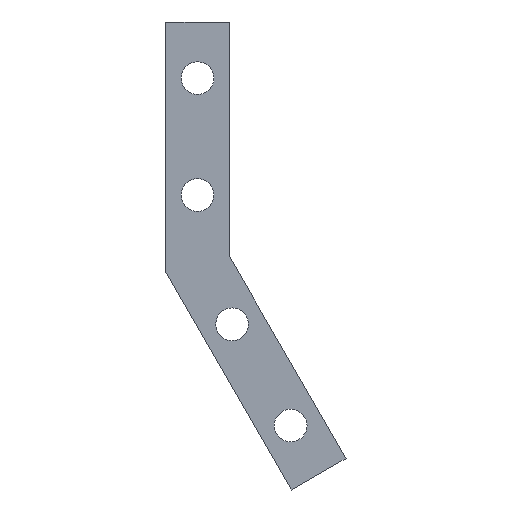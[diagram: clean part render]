
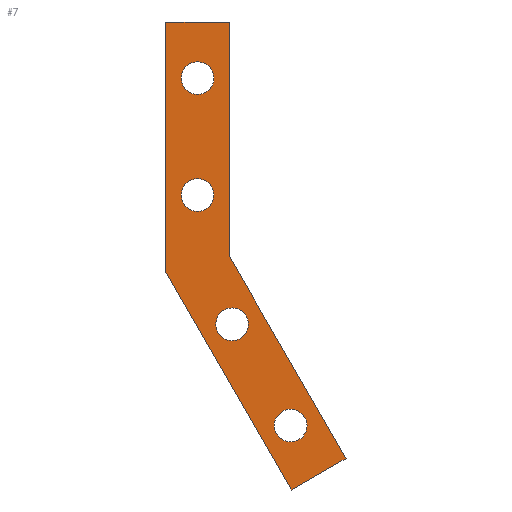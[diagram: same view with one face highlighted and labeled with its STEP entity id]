
A CAD part, front view. The second image highlights one B-rep face of the part: STEP entity #7.
In plain terms, the highlighted planar face has unit normal (0, -1, 0).
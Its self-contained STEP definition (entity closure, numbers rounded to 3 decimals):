
#6 = FACE_BOUND ( 'NONE', #477, .T. ) ;
#7 = ADVANCED_FACE ( 'NONE', ( #425, #380, #6, #175, #182 ), #418, .T. ) ;
#9 = DIRECTION ( 'NONE',  ( 0., -1., 0. ) ) ;
#11 = DIRECTION ( 'NONE',  ( 0., 0., -1. ) ) ;
#13 = EDGE_CURVE ( 'NONE', #508, #85, #261, .T. ) ;
#16 = VERTEX_POINT ( 'NONE', #169 ) ;
#23 = CIRCLE ( 'NONE', #454, 3.5 ) ;
#24 = CARTESIAN_POINT ( 'NONE',  ( 13.5, 0., 3.617 ) ) ;
#27 = DIRECTION ( 'NONE',  ( -0.866, 0., -0.5 ) ) ;
#29 = VERTEX_POINT ( 'NONE', #459 ) ;
#30 = CARTESIAN_POINT ( 'NONE',  ( 26.809, 0., -46.434 ) ) ;
#33 = CARTESIAN_POINT ( 'NONE',  ( 26.654, 0., -32.667 ) ) ;
#35 = VECTOR ( 'NONE', #273, 1000. ) ;
#39 = DIRECTION ( 'NONE',  ( 0., -1., 0. ) ) ;
#40 = CARTESIAN_POINT ( 'NONE',  ( 0., 0., 53.617 ) ) ;
#46 = ORIENTED_EDGE ( 'NONE', *, *, #436, .F. ) ;
#50 = AXIS2_PLACEMENT_3D ( 'NONE', #40, #334, #297 ) ;
#51 = DIRECTION ( 'NONE',  ( 0., 0., -1. ) ) ;
#54 = EDGE_CURVE ( 'NONE', #407, #392, #23, .T. ) ;
#64 = DIRECTION ( 'NONE',  ( -0.5, 0., 0.866 ) ) ;
#65 = CARTESIAN_POINT ( 'NONE',  ( 6.75, 0., 16.617 ) ) ;
#68 = LINE ( 'NONE', #234, #173 ) ;
#72 = CARTESIAN_POINT ( 'NONE',  ( 6.75, 0., 20.117 ) ) ;
#74 = EDGE_CURVE ( 'NONE', #148, #316, #217, .T. ) ;
#80 = CARTESIAN_POINT ( 'NONE',  ( 38.5, 0., -39.684 ) ) ;
#82 = DIRECTION ( 'NONE',  ( 0., -1., 0. ) ) ;
#85 = VERTEX_POINT ( 'NONE', #349 ) ;
#89 = CIRCLE ( 'NONE', #410, 3.5 ) ;
#92 = EDGE_LOOP ( 'NONE', ( #257, #364 ) ) ;
#93 = DIRECTION ( 'NONE',  ( 0., 0., -1. ) ) ;
#94 = AXIS2_PLACEMENT_3D ( 'NONE', #264, #154, #470 ) ;
#119 = AXIS2_PLACEMENT_3D ( 'NONE', #33, #488, #161 ) ;
#122 = EDGE_LOOP ( 'NONE', ( #177, #464 ) ) ;
#145 = ORIENTED_EDGE ( 'NONE', *, *, #378, .F. ) ;
#148 = VERTEX_POINT ( 'NONE', #435 ) ;
#152 = AXIS2_PLACEMENT_3D ( 'NONE', #65, #196, #359 ) ;
#154 = DIRECTION ( 'NONE',  ( 0., -1., 0. ) ) ;
#156 = ORIENTED_EDGE ( 'NONE', *, *, #266, .F. ) ;
#159 = EDGE_CURVE ( 'NONE', #29, #270, #302, .T. ) ;
#161 = DIRECTION ( 'NONE',  ( 0., 0., -1. ) ) ;
#166 = VERTEX_POINT ( 'NONE', #383 ) ;
#169 = CARTESIAN_POINT ( 'NONE',  ( 13.5, 0., 3.617 ) ) ;
#173 = VECTOR ( 'NONE', #291, 1000. ) ;
#175 = FACE_BOUND ( 'NONE', #466, .T. ) ;
#176 = CARTESIAN_POINT ( 'NONE',  ( 14.154, 0., -14.516 ) ) ;
#177 = ORIENTED_EDGE ( 'NONE', *, *, #478, .F. ) ;
#179 = DIRECTION ( 'NONE',  ( 1., 0., 0. ) ) ;
#180 = ORIENTED_EDGE ( 'NONE', *, *, #54, .F. ) ;
#181 = CARTESIAN_POINT ( 'NONE',  ( 14.154, 0., -7.516 ) ) ;
#182 = FACE_BOUND ( 'NONE', #92, .T. ) ;
#186 = ORIENTED_EDGE ( 'NONE', *, *, #74, .F. ) ;
#188 = CARTESIAN_POINT ( 'NONE',  ( 0., 0., 0. ) ) ;
#196 = DIRECTION ( 'NONE',  ( 0., -1., 0. ) ) ;
#214 = DIRECTION ( 'NONE',  ( 0., 0., -1. ) ) ;
#217 = CIRCLE ( 'NONE', #94, 3.5 ) ;
#220 = DIRECTION ( 'NONE',  ( 0., -1., 0. ) ) ;
#223 = ORIENTED_EDGE ( 'NONE', *, *, #537, .F. ) ;
#230 = LINE ( 'NONE', #30, #444 ) ;
#231 = EDGE_CURVE ( 'NONE', #270, #29, #419, .T. ) ;
#234 = CARTESIAN_POINT ( 'NONE',  ( 38.5, 0., -39.684 ) ) ;
#236 = AXIS2_PLACEMENT_3D ( 'NONE', #251, #82, #214 ) ;
#244 = ORIENTED_EDGE ( 'NONE', *, *, #352, .F. ) ;
#246 = VERTEX_POINT ( 'NONE', #532 ) ;
#251 = CARTESIAN_POINT ( 'NONE',  ( 14.154, 0., -11.016 ) ) ;
#257 = ORIENTED_EDGE ( 'NONE', *, *, #231, .F. ) ;
#261 = CIRCLE ( 'NONE', #426, 3.5 ) ;
#264 = CARTESIAN_POINT ( 'NONE',  ( 6.75, 0., 16.617 ) ) ;
#266 = EDGE_CURVE ( 'NONE', #451, #367, #230, .T. ) ;
#267 = LINE ( 'NONE', #484, #35 ) ;
#269 = CARTESIAN_POINT ( 'NONE',  ( 14.154, 0., -11.016 ) ) ;
#270 = VERTEX_POINT ( 'NONE', #363 ) ;
#272 = CARTESIAN_POINT ( 'NONE',  ( 26.654, 0., -32.667 ) ) ;
#273 = DIRECTION ( 'NONE',  ( 0., 0., 1. ) ) ;
#277 = ORIENTED_EDGE ( 'NONE', *, *, #519, .F. ) ;
#289 = DIRECTION ( 'NONE',  ( 0., 0., -1. ) ) ;
#291 = DIRECTION ( 'NONE',  ( 0.5, 0., -0.866 ) ) ;
#293 = LINE ( 'NONE', #376, #319 ) ;
#297 = DIRECTION ( 'NONE',  ( 0., 0., -1. ) ) ;
#302 = CIRCLE ( 'NONE', #400, 3.5 ) ;
#316 = VERTEX_POINT ( 'NONE', #72 ) ;
#319 = VECTOR ( 'NONE', #179, 1000. ) ;
#334 = DIRECTION ( 'NONE',  ( 0., -1., 0. ) ) ;
#339 = EDGE_CURVE ( 'NONE', #316, #148, #371, .T. ) ;
#341 = ORIENTED_EDGE ( 'NONE', *, *, #339, .F. ) ;
#349 = CARTESIAN_POINT ( 'NONE',  ( 6.75, 0., 45.117 ) ) ;
#350 = CARTESIAN_POINT ( 'NONE',  ( 0., 0., 53.617 ) ) ;
#352 = EDGE_CURVE ( 'NONE', #16, #451, #68, .T. ) ;
#359 = DIRECTION ( 'NONE',  ( 0., 0., -1. ) ) ;
#363 = CARTESIAN_POINT ( 'NONE',  ( 26.654, 0., -29.167 ) ) ;
#364 = ORIENTED_EDGE ( 'NONE', *, *, #159, .F. ) ;
#367 = VERTEX_POINT ( 'NONE', #424 ) ;
#370 = CARTESIAN_POINT ( 'NONE',  ( 6.75, 0., 41.617 ) ) ;
#371 = CIRCLE ( 'NONE', #152, 3.5 ) ;
#376 = CARTESIAN_POINT ( 'NONE',  ( 13.5, 0., 53.617 ) ) ;
#378 = EDGE_CURVE ( 'NONE', #392, #407, #447, .T. ) ;
#380 = FACE_BOUND ( 'NONE', #122, .T. ) ;
#383 = CARTESIAN_POINT ( 'NONE',  ( 13.5, 0., 53.617 ) ) ;
#387 = LINE ( 'NONE', #24, #465 ) ;
#389 = VECTOR ( 'NONE', #64, 1000. ) ;
#392 = VERTEX_POINT ( 'NONE', #176 ) ;
#400 = AXIS2_PLACEMENT_3D ( 'NONE', #272, #220, #51 ) ;
#407 = VERTEX_POINT ( 'NONE', #181 ) ;
#410 = AXIS2_PLACEMENT_3D ( 'NONE', #415, #39, #289 ) ;
#415 = CARTESIAN_POINT ( 'NONE',  ( 6.75, 0., 41.617 ) ) ;
#418 = PLANE ( 'NONE',  #50 ) ;
#419 = CIRCLE ( 'NONE', #119, 3.5 ) ;
#424 = CARTESIAN_POINT ( 'NONE',  ( 26.809, 0., -46.434 ) ) ;
#425 = FACE_OUTER_BOUND ( 'NONE', #503, .T. ) ;
#426 = AXIS2_PLACEMENT_3D ( 'NONE', #370, #467, #93 ) ;
#431 = CARTESIAN_POINT ( 'NONE',  ( 6.75, 0., 38.117 ) ) ;
#435 = CARTESIAN_POINT ( 'NONE',  ( 6.75, 0., 13.117 ) ) ;
#436 = EDGE_CURVE ( 'NONE', #547, #166, #293, .T. ) ;
#439 = LINE ( 'NONE', #188, #389 ) ;
#441 = DIRECTION ( 'NONE',  ( 0., 0., -1. ) ) ;
#444 = VECTOR ( 'NONE', #27, 1000. ) ;
#447 = CIRCLE ( 'NONE', #236, 3.5 ) ;
#451 = VERTEX_POINT ( 'NONE', #80 ) ;
#454 = AXIS2_PLACEMENT_3D ( 'NONE', #269, #9, #11 ) ;
#459 = CARTESIAN_POINT ( 'NONE',  ( 26.654, 0., -36.167 ) ) ;
#464 = ORIENTED_EDGE ( 'NONE', *, *, #13, .F. ) ;
#465 = VECTOR ( 'NONE', #441, 1000. ) ;
#466 = EDGE_LOOP ( 'NONE', ( #180, #145 ) ) ;
#467 = DIRECTION ( 'NONE',  ( 0., -1., 0. ) ) ;
#470 = DIRECTION ( 'NONE',  ( 0., 0., -1. ) ) ;
#471 = ORIENTED_EDGE ( 'NONE', *, *, #504, .F. ) ;
#477 = EDGE_LOOP ( 'NONE', ( #341, #186 ) ) ;
#478 = EDGE_CURVE ( 'NONE', #85, #508, #89, .T. ) ;
#484 = CARTESIAN_POINT ( 'NONE',  ( 0., 0., 53.617 ) ) ;
#488 = DIRECTION ( 'NONE',  ( 0., -1., 0. ) ) ;
#503 = EDGE_LOOP ( 'NONE', ( #46, #471, #223, #156, #244, #277 ) ) ;
#504 = EDGE_CURVE ( 'NONE', #246, #547, #267, .T. ) ;
#508 = VERTEX_POINT ( 'NONE', #431 ) ;
#519 = EDGE_CURVE ( 'NONE', #166, #16, #387, .T. ) ;
#532 = CARTESIAN_POINT ( 'NONE',  ( 0., 0., 0. ) ) ;
#537 = EDGE_CURVE ( 'NONE', #367, #246, #439, .T. ) ;
#547 = VERTEX_POINT ( 'NONE', #350 ) ;
